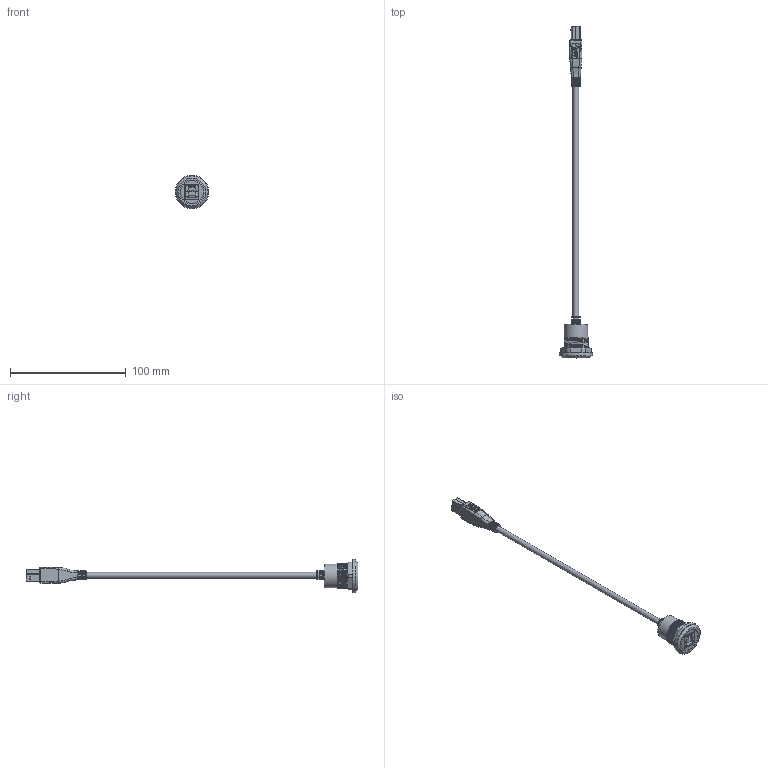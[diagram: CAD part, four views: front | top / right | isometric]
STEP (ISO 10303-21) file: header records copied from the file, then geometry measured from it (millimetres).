
FILE_DESCRIPTION(('FreeCAD Model'),'2;1');
FILE_NAME('Open CASCADE Shape Model','2025-05-09T08:47:18',(''),(''), 'Open CASCADE STEP processor 7.8','FreeCAD','Unknown');
FILE_SCHEMA(('AUTOMOTIVE_DESIGN { 1 0 10303 214 1 1 1 1 }'));
Length unit declared in the file: millimetre
Products named in the file (6): Unnamed; 49187_O-ring; 49187_Coupling_nut; 49187_USB3.0_cable; 49187_USB3.0_front; 49187_connector
Assembly tree (5 placements, depth 2):
  Unnamed
    49187_O-ring
    49187_Coupling_nut
    49187_USB3.0_cable
    49187_USB3.0_front
    49187_connector
Bounding box: 28.7 x 286.31 x 28.7 mm (x, y, z)
Volume: 13858.3 mm3; surface area: 16807 mm2
Topology: 5 solids, 5 shells, 819 faces, 2230 edges, 1462 vertices
Faces by surface type: plane 533, cylinder 173, bspline 64, torus 36, cone 9, sphere 4
Full cylindrical faces by diameter (mm): 5 x1, 7.75 x2, 19.64 x1, 20 x1, 20.65 x15, 21.6 x1, 24.3 x1, 27.7 x1, 28.7 x1
Entity records: 524459 total; most frequent: CARTESIAN_POINT 501104, ORIENTED_EDGE 4452, DIRECTION 3875, EDGE_CURVE 2226, LINE 1491, VECTOR 1491, VERTEX_POINT 1462, AXIS2_PLACEMENT_3D 1192
